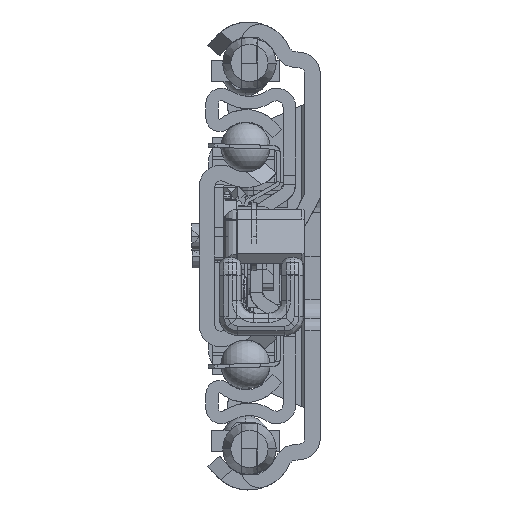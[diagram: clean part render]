
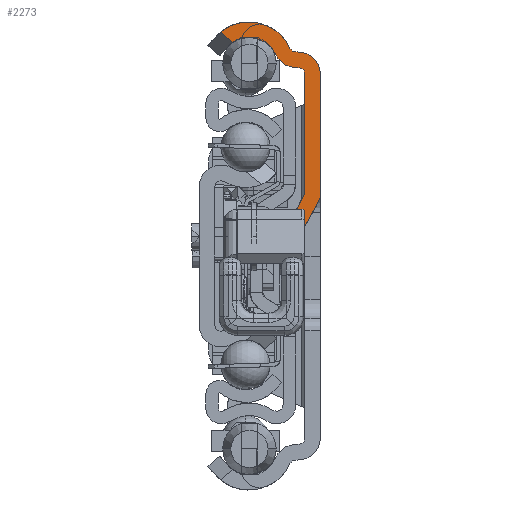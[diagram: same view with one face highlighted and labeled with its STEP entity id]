
A CAD part, left-side view. The second image highlights one B-rep face of the part: STEP entity #2273.
In plain terms, the highlighted planar face has unit normal (-1, 0, 0).
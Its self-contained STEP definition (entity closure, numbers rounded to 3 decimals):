
#1=DIRECTION('',(0.,-0.769,-0.639));
#2=VECTOR('',#1,2.575);
#3=CARTESIAN_POINT('',(0.,16.079,36.021));
#4=LINE('',#3,#2);
#5=CARTESIAN_POINT('',(0.,11.5,30.4));
#6=DIRECTION('',(1.,0.,0.));
#7=DIRECTION('',(0.,0.632,0.775));
#8=AXIS2_PLACEMENT_3D('',#5,#6,#7);
#10=DIRECTION('',(0.,-0.996,-0.087));
#11=VECTOR('',#10,0.904);
#12=CARTESIAN_POINT('',(0.,4.095,32.858));
#13=LINE('',#12,#11);
#14=CARTESIAN_POINT('',(0.,3.5,29.293));
#15=DIRECTION('',(-1.,0.,0.));
#16=DIRECTION('',(0.,-1.,0.));
#17=AXIS2_PLACEMENT_3D('',#14,#15,#16);
#19=CARTESIAN_POINT('',(0.,2.5,9.942));
#20=DIRECTION('',(1.,0.,0.));
#21=DIRECTION('',(0.,-1.,0.));
#22=AXIS2_PLACEMENT_3D('',#19,#20,#21);
#24=DIRECTION('',(0.,-1.,0.));
#25=VECTOR('',#24,2.78);
#26=CARTESIAN_POINT('',(0.,6.177,3.04));
#27=LINE('',#26,#25);
#28=CARTESIAN_POINT('',(0.,0.5,1.099));
#29=DIRECTION('',(-1.,0.,0.));
#30=DIRECTION('',(0.,0.879,0.477));
#31=AXIS2_PLACEMENT_3D('',#28,#29,#30);
#33=DIRECTION('',(0.,0.477,-0.879));
#34=VECTOR('',#33,6.873);
#35=CARTESIAN_POINT('',(0.,2.5,10.));
#36=LINE('',#35,#34);
#37=DIRECTION('',(0.,0.,1.));
#38=VECTOR('',#37,19.293);
#39=CARTESIAN_POINT('',(0.,2.5,10.));
#40=LINE('',#39,#38);
#41=DIRECTION('',(0.,0.996,0.087));
#42=VECTOR('',#41,0.904);
#43=CARTESIAN_POINT('',(0.,3.413,30.289));
#44=LINE('',#43,#42);
#45=CARTESIAN_POINT('',(0.,4.008,33.854));
#46=DIRECTION('',(-1.,0.,0.));
#47=DIRECTION('',(0.,0.908,-0.419));
#48=AXIS2_PLACEMENT_3D('',#45,#46,#47);
#50=CARTESIAN_POINT('',(0.,11.5,30.4));
#51=DIRECTION('',(-1.,0.,0.));
#52=DIRECTION('',(0.,-0.908,0.419));
#53=AXIS2_PLACEMENT_3D('',#50,#51,#52);
#99=CARTESIAN_POINT('',(0.,14.098,34.377));
#147=CARTESIAN_POINT('',(0.,3.5,29.293));
#148=DIRECTION('',(1.,0.,0.));
#149=DIRECTION('',(0.,-0.087,0.996));
#150=AXIS2_PLACEMENT_3D('',#147,#148,#149);
#635=DIRECTION('',(0.,0.,1.));
#636=VECTOR('',#635,19.351);
#637=CARTESIAN_POINT('',(0.,0.,9.942));
#638=LINE('',#637,#636);
#956=CARTESIAN_POINT('',(0.,16.079,
36.021));
#1391=CARTESIAN_POINT('',(0.,4.008,33.854));
#1392=DIRECTION('',(1.,0.,0.));
#1393=DIRECTION('',(0.,0.087,-0.996));
#1394=AXIS2_PLACEMENT_3D('',#1391,#1392,#1393);
#1488=CARTESIAN_POINT('',(0.,3.397,3.04));
#1493=DIRECTION('',(0.,-0.477,0.879));
#1494=VECTOR('',#1493,6.495);
#1495=CARTESIAN_POINT('',(0.,3.397,3.04));
#1496=LINE('',#1495,#1494);
#1739=CARTESIAN_POINT('',(0.,3.413,30.289));
#1740=CARTESIAN_POINT('',(0.,2.5,29.293));
#1741=VERTEX_POINT('',#1739);
#1742=VERTEX_POINT('',#1740);
#1743=CARTESIAN_POINT('',(0.,4.095,32.858));
#1744=CARTESIAN_POINT('',(0.,4.916,33.436));
#1745=VERTEX_POINT('',#1743);
#1746=VERTEX_POINT('',#1744);
#1755=CARTESIAN_POINT('',(0.,7.186,32.389));
#1756=CARTESIAN_POINT('',(0.,4.313,30.368));
#1757=VERTEX_POINT('',#1755);
#1758=VERTEX_POINT('',#1756);
#1759=CARTESIAN_POINT('',(0.,0.,29.293));
#1760=CARTESIAN_POINT('',(0.,3.195,32.78));
#1761=VERTEX_POINT('',#1759);
#1762=VERTEX_POINT('',#1760);
#1855=CARTESIAN_POINT('',(0.,2.5,10.));
#1856=VERTEX_POINT('',#1855);
#1915=CARTESIAN_POINT('',(0.,0.,9.942));
#1917=VERTEX_POINT('',#1915);
#1920=CARTESIAN_POINT('',(0.,0.302,8.751));
#1921=VERTEX_POINT('',#1920);
#1924=CARTESIAN_POINT('',(0.,5.775,3.958));
#1925=VERTEX_POINT('',#1924);
#1926=CARTESIAN_POINT('',(0.,6.177,3.04));
#1927=VERTEX_POINT('',#1926);
#1930=VERTEX_POINT('',#1488);
#2192=VERTEX_POINT('',#99);
#2200=VERTEX_POINT('',#956);
#2234=CARTESIAN_POINT('',(0.,0.,0.));
#2235=DIRECTION('',(1.,0.,0.));
#2236=DIRECTION('',(0.,-1.,0.));
#2237=AXIS2_PLACEMENT_3D('',#2234,#2235,#2236);
#2238=PLANE('',#2237);
#2240=ORIENTED_EDGE('',*,*,#2239,.F.);
#2242=ORIENTED_EDGE('',*,*,#2241,.T.);
#2244=ORIENTED_EDGE('',*,*,#2243,.F.);
#2246=ORIENTED_EDGE('',*,*,#2245,.T.);
#2248=ORIENTED_EDGE('',*,*,#2247,.F.);
#2250=ORIENTED_EDGE('',*,*,#2249,.F.);
#2252=ORIENTED_EDGE('',*,*,#2251,.T.);
#2254=ORIENTED_EDGE('',*,*,#2253,.F.);
#2256=ORIENTED_EDGE('',*,*,#2255,.F.);
#2258=ORIENTED_EDGE('',*,*,#2257,.F.);
#2260=ORIENTED_EDGE('',*,*,#2259,.F.);
#2262=ORIENTED_EDGE('',*,*,#2261,.T.);
#2264=ORIENTED_EDGE('',*,*,#2263,.F.);
#2266=ORIENTED_EDGE('',*,*,#2265,.T.);
#2268=ORIENTED_EDGE('',*,*,#2267,.F.);
#2270=ORIENTED_EDGE('',*,*,#2269,.T.);
#2271=EDGE_LOOP('',(#2240,#2242,#2244,#2246,#2248,#2250,#2252,#2254,#2256,#2258,
#2260,#2262,#2264,#2266,#2268,#2270));
#2272=FACE_OUTER_BOUND('',#2271,.F.);
#9=CIRCLE('',#8,7.25);
#18=CIRCLE('',#17,3.5);
#23=CIRCLE('',#22,2.5);
#32=CIRCLE('',#31,6.);
#49=CIRCLE('',#48,3.5);
#54=CIRCLE('',#53,4.75);
#151=CIRCLE('',#150,1.);
#1395=CIRCLE('',#1394,1.);
#2239=EDGE_CURVE('',#2200,#2192,#4,.T.);
#2241=EDGE_CURVE('',#2200,#1746,#9,.T.);
#2243=EDGE_CURVE('',#1745,#1746,#1395,.T.);
#2245=EDGE_CURVE('',#1745,#1762,#13,.T.);
#2247=EDGE_CURVE('',#1761,#1762,#18,.T.);
#2249=EDGE_CURVE('',#1917,#1761,#638,.T.);
#2251=EDGE_CURVE('',#1917,#1921,#23,.T.);
#2253=EDGE_CURVE('',#1930,#1921,#1496,.T.);
#2255=EDGE_CURVE('',#1927,#1930,#27,.T.);
#2257=EDGE_CURVE('',#1925,#1927,#32,.T.);
#2259=EDGE_CURVE('',#1856,#1925,#36,.T.);
#2261=EDGE_CURVE('',#1856,#1742,#40,.T.);
#2263=EDGE_CURVE('',#1741,#1742,#151,.T.);
#2265=EDGE_CURVE('',#1741,#1758,#44,.T.);
#2267=EDGE_CURVE('',#1757,#1758,#49,.T.);
#2269=EDGE_CURVE('',#1757,#2192,#54,.T.);
#2273=ADVANCED_FACE('',(#2272),#2238,.F.);
